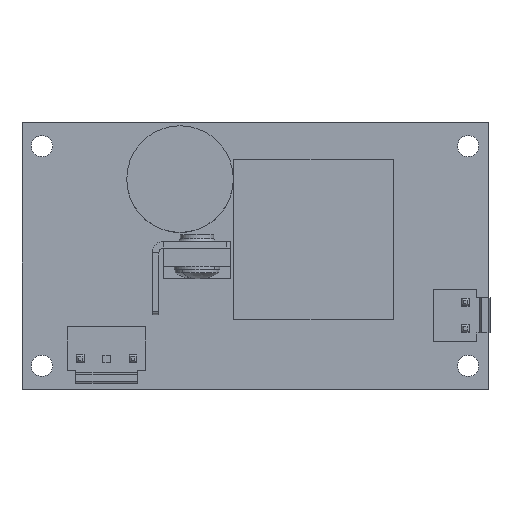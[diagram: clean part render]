
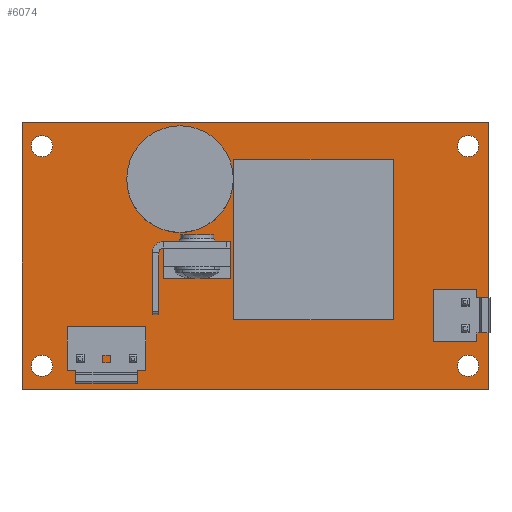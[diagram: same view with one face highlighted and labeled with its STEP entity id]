
A CAD part, top view. The second image highlights one B-rep face of the part: STEP entity #6074.
In plain terms, the highlighted planar face has unit normal (0, 0, 1).
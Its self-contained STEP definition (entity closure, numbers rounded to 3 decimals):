
#6 = CARTESIAN_POINT ( 'NONE',  ( 6., -13.715, 1.6 ) ) ;
#58 = DIRECTION ( 'NONE',  ( 0., 0., 1. ) ) ;
#253 = FACE_BOUND ( 'NONE', #1210, .T. ) ;
#311 = EDGE_CURVE ( 'NONE', #7242, #4021, #1999, .T. ) ;
#478 = AXIS2_PLACEMENT_3D ( 'NONE', #8506, #3347, #9360 ) ;
#503 = EDGE_LOOP ( 'NONE', ( #7598, #2716 ) ) ;
#519 = FACE_BOUND ( 'NONE', #503, .T. ) ;
#609 = VERTEX_POINT ( 'NONE', #8221 ) ;
#638 = VERTEX_POINT ( 'NONE', #10867 ) ;
#725 = CARTESIAN_POINT ( 'NONE',  ( 70., -13.715, 1.6 ) ) ;
#844 = AXIS2_PLACEMENT_3D ( 'NONE', #5240, #58, #6092 ) ;
#908 = DIRECTION ( 'NONE',  ( 1., 0., 0. ) ) ;
#911 = CARTESIAN_POINT ( 'NONE',  ( 68.4, -13.715, 1.6 ) ) ;
#965 = PLANE ( 'NONE',  #8932 ) ;
#998 = AXIS2_PLACEMENT_3D ( 'NONE', #6697, #1536, #7569 ) ;
#1134 = CIRCLE ( 'NONE', #1483, 1.6 ) ;
#1210 = EDGE_LOOP ( 'NONE', ( #9391, #8176 ) ) ;
#1212 = VECTOR ( 'NONE', #5437, 1000. ) ;
#1308 = CIRCLE ( 'NONE', #5820, 1.6 ) ;
#1483 = AXIS2_PLACEMENT_3D ( 'NONE', #1677, #7703, #2552 ) ;
#1536 = DIRECTION ( 'NONE',  ( 0., 0., 1. ) ) ;
#1602 = DIRECTION ( 'NONE',  ( 1., 0., 0. ) ) ;
#1677 = CARTESIAN_POINT ( 'NONE',  ( 70., -13.715, 1.6 ) ) ;
#1785 = DIRECTION ( 'NONE',  ( 0., 1., 0. ) ) ;
#1827 = DIRECTION ( 'NONE',  ( 0., 0., 1. ) ) ;
#1869 = CARTESIAN_POINT ( 'NONE',  ( 3., -17.215, 1.6 ) ) ;
#1921 = CARTESIAN_POINT ( 'NONE',  ( 7.6, -13.715, 1.6 ) ) ;
#1952 = LINE ( 'NONE', #4620, #3951 ) ;
#1999 = CIRCLE ( 'NONE', #478, 1.6 ) ;
#2065 = DIRECTION ( 'NONE',  ( -1., 0., 0. ) ) ;
#2394 = EDGE_CURVE ( 'NONE', #11035, #609, #8549, .T. ) ;
#2547 = FACE_BOUND ( 'NONE', #2814, .T. ) ;
#2552 = DIRECTION ( 'NONE',  ( 1., 0., 0. ) ) ;
#2590 = ORIENTED_EDGE ( 'NONE', *, *, #6295, .T. ) ;
#2716 = ORIENTED_EDGE ( 'NONE', *, *, #9601, .F. ) ;
#2735 = DIRECTION ( 'NONE',  ( 1., 0., 0. ) ) ;
#2754 = CIRCLE ( 'NONE', #6330, 1.6 ) ;
#2788 = CARTESIAN_POINT ( 'NONE',  ( 4.4, 19.285, 1.6 ) ) ;
#2814 = EDGE_LOOP ( 'NONE', ( #11102, #8253 ) ) ;
#2990 = VERTEX_POINT ( 'NONE', #1921 ) ;
#3039 = AXIS2_PLACEMENT_3D ( 'NONE', #6, #6052, #908 ) ;
#3090 = EDGE_CURVE ( 'NONE', #8109, #2990, #10549, .T. ) ;
#3145 = CARTESIAN_POINT ( 'NONE',  ( 6., 19.285, 1.6 ) ) ;
#3184 = CARTESIAN_POINT ( 'NONE',  ( 71.6, -13.715, 1.6 ) ) ;
#3276 = CIRCLE ( 'NONE', #844, 1.6 ) ;
#3347 = DIRECTION ( 'NONE',  ( 0., 0., 1. ) ) ;
#3464 = EDGE_CURVE ( 'NONE', #4021, #7242, #3276, .T. ) ;
#3755 = VERTEX_POINT ( 'NONE', #9415 ) ;
#3764 = DIRECTION ( 'NONE',  ( 0., 0., 1. ) ) ;
#3951 = VECTOR ( 'NONE', #2065, 1000. ) ;
#3991 = DIRECTION ( 'NONE',  ( 1., 0., 0. ) ) ;
#4021 = VERTEX_POINT ( 'NONE', #9726 ) ;
#4044 = EDGE_CURVE ( 'NONE', #10361, #638, #1952, .T. ) ;
#4443 = EDGE_LOOP ( 'NONE', ( #5773, #4555 ) ) ;
#4555 = ORIENTED_EDGE ( 'NONE', *, *, #3464, .F. ) ;
#4582 = EDGE_CURVE ( 'NONE', #5748, #9969, #2754, .T. ) ;
#4620 = CARTESIAN_POINT ( 'NONE',  ( 3., 22.785, 1.6 ) ) ;
#4664 = CIRCLE ( 'NONE', #3039, 1.6 ) ;
#4831 = FACE_BOUND ( 'NONE', #4443, .T. ) ;
#4848 = EDGE_CURVE ( 'NONE', #9969, #5748, #1134, .T. ) ;
#4910 = LINE ( 'NONE', #10395, #9117 ) ;
#5240 = CARTESIAN_POINT ( 'NONE',  ( 70., 19.285, 1.6 ) ) ;
#5257 = ORIENTED_EDGE ( 'NONE', *, *, #9108, .T. ) ;
#5437 = DIRECTION ( 'NONE',  ( 0., -1., 0. ) ) ;
#5482 = CARTESIAN_POINT ( 'NONE',  ( 3., 22.785, 1.6 ) ) ;
#5500 = VERTEX_POINT ( 'NONE', #2788 ) ;
#5748 = VERTEX_POINT ( 'NONE', #3184 ) ;
#5765 = LINE ( 'NONE', #5482, #1212 ) ;
#5773 = ORIENTED_EDGE ( 'NONE', *, *, #311, .F. ) ;
#5820 = AXIS2_PLACEMENT_3D ( 'NONE', #3145, #9153, #3991 ) ;
#6052 = DIRECTION ( 'NONE',  ( 0., 0., 1. ) ) ;
#6074 = ADVANCED_FACE ( 'NONE', ( #4831, #519, #9402, #2547, #253 ), #965, .T. ) ;
#6092 = DIRECTION ( 'NONE',  ( 1., 0., 0. ) ) ;
#6295 = EDGE_CURVE ( 'NONE', #638, #11035, #5765, .T. ) ;
#6330 = AXIS2_PLACEMENT_3D ( 'NONE', #725, #6754, #1602 ) ;
#6687 = EDGE_CURVE ( 'NONE', #5500, #3755, #9682, .T. ) ;
#6697 = CARTESIAN_POINT ( 'NONE',  ( 6., 19.285, 1.6 ) ) ;
#6754 = DIRECTION ( 'NONE',  ( 0., 0., 1. ) ) ;
#6981 = CARTESIAN_POINT ( 'NONE',  ( 0., 0., 1.6 ) ) ;
#7242 = VERTEX_POINT ( 'NONE', #10118 ) ;
#7311 = CARTESIAN_POINT ( 'NONE',  ( 73., 22.785, 1.6 ) ) ;
#7561 = CARTESIAN_POINT ( 'NONE',  ( 4.4, -13.715, 1.6 ) ) ;
#7569 = DIRECTION ( 'NONE',  ( 1., 0., 0. ) ) ;
#7598 = ORIENTED_EDGE ( 'NONE', *, *, #6687, .F. ) ;
#7703 = DIRECTION ( 'NONE',  ( 0., 0., 1. ) ) ;
#7853 = DIRECTION ( 'NONE',  ( 1., 0., 0. ) ) ;
#8109 = VERTEX_POINT ( 'NONE', #7561 ) ;
#8176 = ORIENTED_EDGE ( 'NONE', *, *, #4582, .F. ) ;
#8221 = CARTESIAN_POINT ( 'NONE',  ( 73., -17.215, 1.6 ) ) ;
#8253 = ORIENTED_EDGE ( 'NONE', *, *, #8469, .F. ) ;
#8469 = EDGE_CURVE ( 'NONE', #2990, #8109, #4664, .T. ) ;
#8506 = CARTESIAN_POINT ( 'NONE',  ( 70., 19.285, 1.6 ) ) ;
#8549 = LINE ( 'NONE', #1869, #10282 ) ;
#8921 = CARTESIAN_POINT ( 'NONE',  ( 6., -13.715, 1.6 ) ) ;
#8932 = AXIS2_PLACEMENT_3D ( 'NONE', #6981, #1827, #7853 ) ;
#9108 = EDGE_CURVE ( 'NONE', #609, #10361, #4910, .T. ) ;
#9117 = VECTOR ( 'NONE', #1785, 1000. ) ;
#9153 = DIRECTION ( 'NONE',  ( 0., 0., 1. ) ) ;
#9360 = DIRECTION ( 'NONE',  ( 1., 0., 0. ) ) ;
#9391 = ORIENTED_EDGE ( 'NONE', *, *, #4848, .F. ) ;
#9402 = FACE_OUTER_BOUND ( 'NONE', #10088, .T. ) ;
#9415 = CARTESIAN_POINT ( 'NONE',  ( 7.6, 19.285, 1.6 ) ) ;
#9601 = EDGE_CURVE ( 'NONE', #3755, #5500, #1308, .T. ) ;
#9682 = CIRCLE ( 'NONE', #998, 1.6 ) ;
#9726 = CARTESIAN_POINT ( 'NONE',  ( 71.6, 19.285, 1.6 ) ) ;
#9782 = DIRECTION ( 'NONE',  ( 1., 0., 0. ) ) ;
#9890 = ORIENTED_EDGE ( 'NONE', *, *, #2394, .T. ) ;
#9969 = VERTEX_POINT ( 'NONE', #911 ) ;
#10088 = EDGE_LOOP ( 'NONE', ( #2590, #9890, #5257, #10874 ) ) ;
#10118 = CARTESIAN_POINT ( 'NONE',  ( 68.4, 19.285, 1.6 ) ) ;
#10282 = VECTOR ( 'NONE', #2735, 1000. ) ;
#10361 = VERTEX_POINT ( 'NONE', #7311 ) ;
#10395 = CARTESIAN_POINT ( 'NONE',  ( 73., 22.785, 1.6 ) ) ;
#10518 = AXIS2_PLACEMENT_3D ( 'NONE', #8921, #3764, #9782 ) ;
#10549 = CIRCLE ( 'NONE', #10518, 1.6 ) ;
#10578 = CARTESIAN_POINT ( 'NONE',  ( 3., -17.215, 1.6 ) ) ;
#10867 = CARTESIAN_POINT ( 'NONE',  ( 3., 22.785, 1.6 ) ) ;
#10874 = ORIENTED_EDGE ( 'NONE', *, *, #4044, .T. ) ;
#11035 = VERTEX_POINT ( 'NONE', #10578 ) ;
#11102 = ORIENTED_EDGE ( 'NONE', *, *, #3090, .F. ) ;
